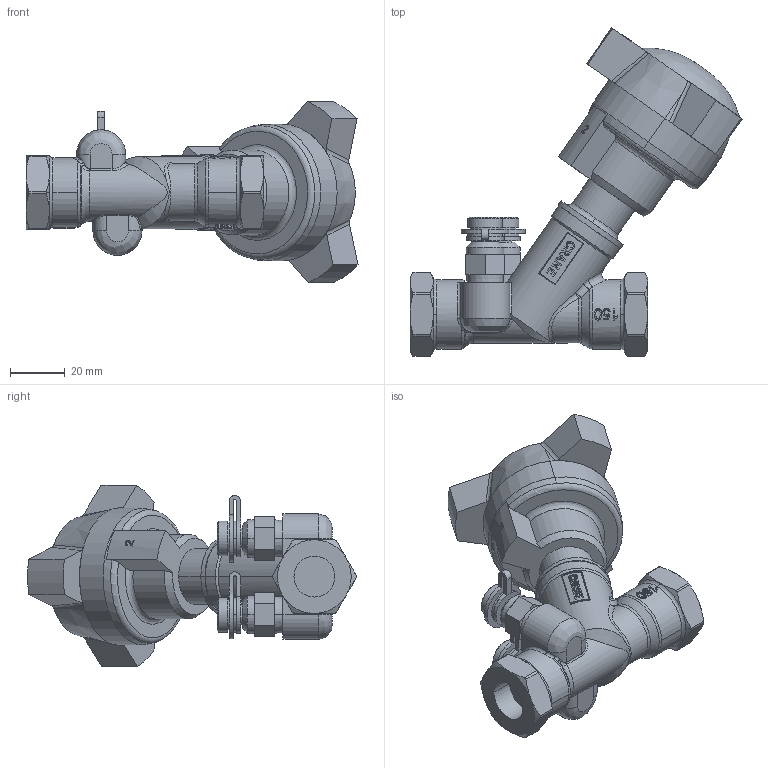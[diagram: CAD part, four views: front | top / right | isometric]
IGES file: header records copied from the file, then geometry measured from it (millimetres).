
Global section: file name: No Iges File Name specified; native system: AutoDesk Inventor R12.0; preprocessor: AutoDesk Inventor Iges Exporter R12.0; date: 20110304.103603; units: millimetre
Bounding box: 121.59 x 120.36 x 66.44 mm (x, y, z)
Volume: 162138.3 mm3; surface area: 28922.5 mm2
Topology: 1 solids, 1 shells, 805 faces, 2159 edges, 1418 vertices
Faces by surface type: plane 333, bspline 332, cylinder 89, cone 38, revolution 10, torus 3
